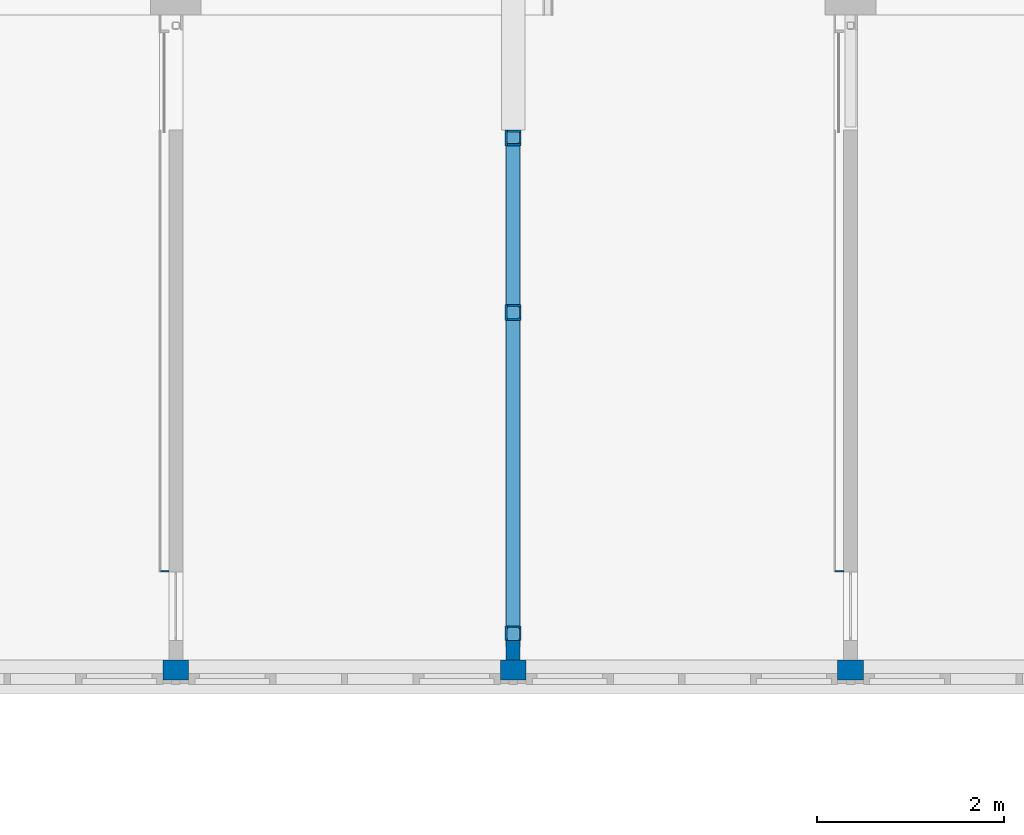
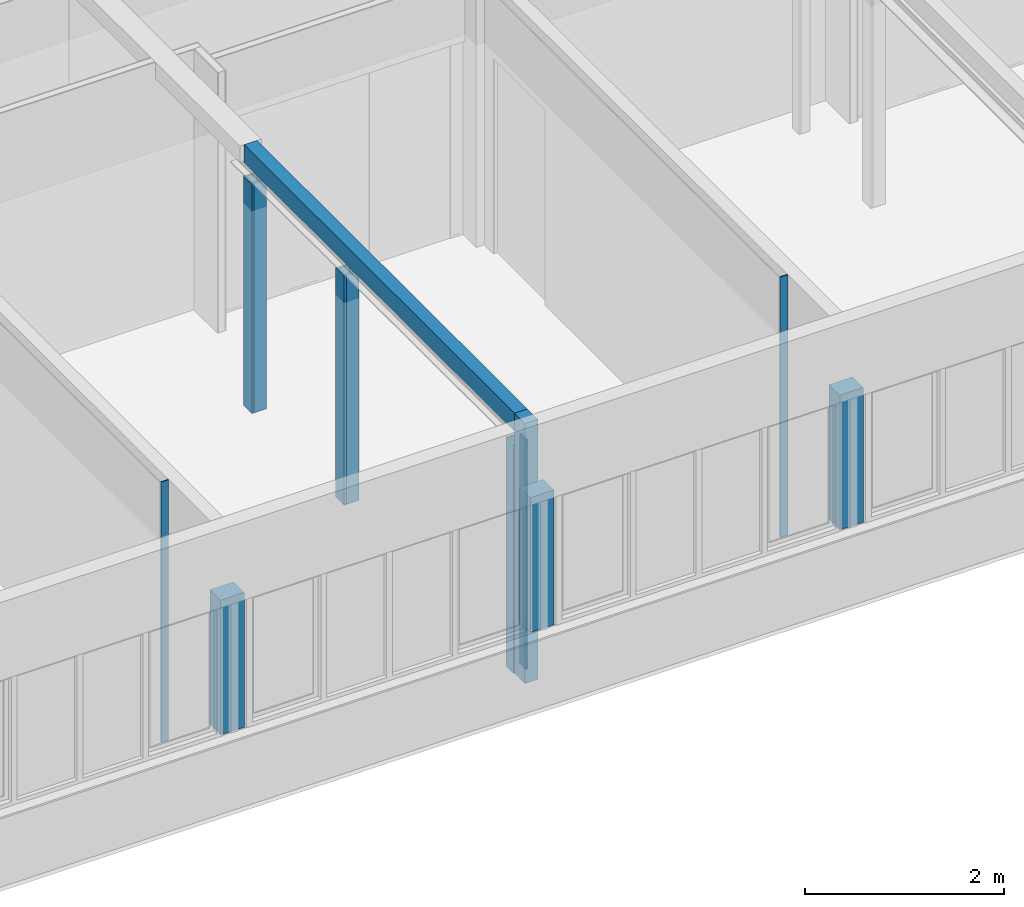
# One storey, part 64 of 117: 18 walls.
"""IFC2X3 building model written with IfcOpenShell, lengths in millimetres."""

from ifc_helpers import new_model, entity, si_unit, converted_unit, derived_unit, money_unit, direction, frame, origin_with_axes, place, context, subcontext, project, spatial, faceted_brep, material, type_object, element, save


model = new_model("IFC2X3")

# Units and contexts
model_context = context("Model", 3, precision=0.01, world=origin_with_axes(), true_north=direction((0.0, 1.0)))
body_context = subcontext(model_context, "Body", "Model", "MODEL_VIEW")
ifc_project = project(units=[si_unit("LENGTHUNIT", "METRE", prefix="MILLI"), si_unit("AREAUNIT", "SQUARE_METRE"), si_unit("VOLUMEUNIT", "CUBIC_METRE"), converted_unit("PLANEANGLEUNIT", "DEGREE", entity("IfcPlaneAngleMeasure", 0.0174532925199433), si_unit("PLANEANGLEUNIT", "RADIAN"), dimensions=[0, 0, 0, 0, 0, 0, 0]), money_unit("EUR"), converted_unit("TIMEUNIT", "Year", entity("IfcTimeMeasure", 31557600.0), si_unit("TIMEUNIT", "SECOND"), dimensions=[0, 0, 1, 0, 0, 0, 0]), si_unit("MASSUNIT", "GRAM", prefix="KILO"), si_unit("THERMODYNAMICTEMPERATUREUNIT", "DEGREE_CELSIUS"), si_unit("LUMINOUSINTENSITYUNIT", "LUMEN"), si_unit("ENERGYUNIT", "JOULE", prefix="MEGA"), derived_unit("THERMALCONDUCTANCEUNIT", [(si_unit("POWERUNIT", "WATT"), 1), (si_unit("LENGTHUNIT", "METRE"), -1), (si_unit("THERMODYNAMICTEMPERATUREUNIT", "KELVIN"), -1)]), derived_unit("SPECIFICHEATCAPACITYUNIT", [(si_unit("ENERGYUNIT", "JOULE"), 1), (si_unit("MASSUNIT", "GRAM", prefix="KILO"), -1), (si_unit("THERMODYNAMICTEMPERATUREUNIT", "KELVIN"), -1)]), derived_unit("MASSDENSITYUNIT", [(si_unit("MASSUNIT", "GRAM", prefix="KILO"), 1), (si_unit("VOLUMEUNIT", "CUBIC_METRE"), -1)])], contexts=[model_context])

# Site, building, storey
site_placement = place(None, origin_with_axes())
site = spatial("IfcSite", under=ifc_project, at=site_placement, Name="Site", CompositionType="ELEMENT")
building_placement = place(site_placement, origin_with_axes())
building = spatial("IfcBuilding", under=site, at=building_placement, Name="Naam gebouw", CompositionType="ELEMENT")
storey_placement = place(building_placement, frame((0.0, 0.0, 4150.0), z_axis=(0.0, 0.0, 1.0), x_axis=(1.0, 0.0, 0.0)))
storey = spatial("IfcBuildingStorey", under=building, at=storey_placement, Name="1e verdieping N", CompositionType="ELEMENT", Elevation=4150.0)

# Walls
ifc_material_1 = material(Name="ALG - CONSTRUCTIEF")
wall_type_1 = type_object("IfcWallType", Name="ALG - CONSTRUCTIEF 150", PredefinedType="NOTDEFINED")
wall_1_placement = place(storey_placement, frame((46799.99999999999, 10990.91242510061, -99.99999999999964), z_axis=(0.0, 0.0, 1.0), x_axis=(0.0, 1.0, 0.0)))
element("IfcWall", 1, at=wall_1_placement, inside=storey, type_object=wall_type_1, material=ifc_material_1, Name="_Wand-x", context=body_context, shape_type="Brep", body=[
    faceted_brep([(209.9999999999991, -75.00000000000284, 3300.0), (0.0, -75.00000000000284, 3300.0), (0.0, -75.00000000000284, 99.99999999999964), (209.9999999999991, -75.00000000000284, 99.99999999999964), (209.9999999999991, 75.00000000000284, 3300.0), (0.0, 75.00000000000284, 3300.0), (0.0, 75.00000000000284, 99.99999999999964), (209.9999999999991, 75.00000000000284, 99.99999999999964)], [[[0, 1, 2, 3]], [[4, 5, 1, 0]], [[1, 5, 6, 2]], [[2, 6, 7, 3]], [[4, 0, 3, 7]], [[5, 4, 7, 6]]]),
])
ifc_material_2 = material(Name="Gipsplaat")
wall_type_2 = type_object("IfcWallType", Name="Metalstud 100 enkel 100", PredefinedType="NOTDEFINED")
for number, where, z_axis, x_axis, name in (
    (2, (50324.99998658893, 11930.91242510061, 0.0), (0.0, 0.0, 1.0), (-1.0, 0.0, 0.0), "_Wand-x"),
    (3, (43125.0, 11930.91242510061, 0.0), (0.0, 0.0, 1.0), (-1.0, 0.0, 0.0), "_Wand-x"),
):
    element("IfcWall", number, at=place(storey_placement, frame(where, z_axis=z_axis, x_axis=x_axis)), inside=storey, type_object=wall_type_2, material=ifc_material_2, Name=name, context=body_context, shape_type="Brep", body=[
        faceted_brep([(87.49999999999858, -12.49999999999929, 0.0), (87.49999999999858, -12.49999999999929, 3200.0), (0.0, -12.49999999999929, 3200.0), (0.0, -12.49999999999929, 0.0), (87.49999999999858, 0.0, 0.0), (87.49999999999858, 0.0, 3200.0), (0.0, 0.0, 3200.0), (0.0, 0.0, 0.0)], [[[0, 1, 2, 3]], [[4, 5, 1, 0]], [[5, 6, 2, 1]], [[3, 2, 6, 7]], [[7, 4, 0, 3]], [[7, 6, 5, 4]]]),
    ])
wall_type_3 = type_object("IfcWallType", Name="Gipsplaat 25", PredefinedType="NOTDEFINED")
wall_2_placement = place(storey_placement, frame((46715.00000000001, 11200.91242510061, 0.0), z_axis=(0.0, 0.0, 1.0), x_axis=(0.0, 1.0, 0.0)))
element("IfcWall", 4, at=wall_2_placement, inside=storey, type_object=wall_type_3, material=ifc_material_2, Name="_Wand-x", context=body_context, shape_type="Brep", body=[
    faceted_brep([(154.9999999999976, -24.99999999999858, 2820.0), (154.9999999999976, 0.0, 2820.0), (0.0, 0.0, 2820.0), (0.0, -24.99999999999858, 2820.0), (154.9999999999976, -24.99999999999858, 0.0), (154.9999999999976, 0.0, 0.0), (0.0, 0.0, 0.0), (0.0, -24.99999999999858, 0.0)], [[[0, 1, 2, 3]], [[1, 0, 4, 5]], [[1, 5, 6, 2]], [[7, 3, 2, 6]], [[4, 0, 3, 7]], [[5, 4, 7, 6]]]),
])
wall_3_placement = place(storey_placement, frame((46715.00000000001, 16475.91242510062, 0.0), z_axis=(0.0, 0.0, 1.0), x_axis=(1.0, 0.0, 0.0)))
element("IfcWall", 5, at=wall_3_placement, inside=storey, type_object=wall_type_3, material=ifc_material_2, Name="_Wand-x", context=body_context, shape_type="Brep", body=[
    faceted_brep([(169.9999999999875, 25.00000000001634, 0.0), (169.9999999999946, 0.0, 0.0), (24.99999999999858, 0.0, 0.0), (24.99999999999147, 25.00000000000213, 0.0), (169.9999999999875, 25.00000000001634, 2820.0), (169.9999999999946, 0.0, 2820.0), (24.99999999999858, 0.0, 2820.0), (24.99999999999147, 25.00000000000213, 2820.0)], [[[0, 1, 2, 3]], [[1, 0, 4, 5]], [[1, 5, 6, 2]], [[7, 3, 2, 6]], [[4, 0, 3, 7]], [[5, 4, 7, 6]]]),
])
wall_4_placement = place(storey_placement, frame((46885.00000000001, 16475.9124251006, 0.0), z_axis=(0.0, 0.0, 1.0), x_axis=(0.0, 1.0, 0.0)))
element("IfcWall", 6, at=wall_4_placement, inside=storey, type_object=wall_type_3, material=ifc_material_2, Name="_Wand-x", context=body_context, shape_type="Brep", body=[
    faceted_brep([(145.0000000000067, 25.00000000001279, 0.0), (145.0000000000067, 0.0, 0.0), (24.99999999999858, 0.0, 0.0), (25.00000000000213, 24.99999999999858, 0.0), (145.0000000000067, 25.00000000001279, 2820.0), (145.0000000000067, 0.0, 2820.0), (24.99999999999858, 0.0, 2820.0), (25.00000000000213, 24.99999999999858, 2820.0)], [[[0, 1, 2, 3]], [[1, 0, 4, 5]], [[1, 5, 6, 2]], [[7, 3, 2, 6]], [[4, 0, 3, 7]], [[5, 4, 7, 6]]]),
])
wall_5_placement = place(storey_placement, frame((46885.00000000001, 11200.91242510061, 0.0), z_axis=(0.0, 0.0, 1.0), x_axis=(0.0, 1.0, 0.0)))
element("IfcWall", 7, at=wall_5_placement, inside=storey, type_object=wall_type_3, material=ifc_material_2, Name="_Wand-x", context=body_context, shape_type="Brep", body=[
    faceted_brep([(129.9999999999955, 25.00000000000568, 0.0), (129.9999999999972, 0.0, 0.0), (0.0, 0.0, 0.0), (0.0, 24.99999999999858, 0.0), (129.9999999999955, 25.00000000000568, 2820.0), (129.9999999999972, 0.0, 2820.0), (0.0, 0.0, 2820.0), (0.0, 24.99999999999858, 2820.0)], [[[0, 1, 2, 3]], [[1, 0, 4, 5]], [[1, 5, 6, 2]], [[7, 3, 2, 6]], [[4, 0, 3, 7]], [[5, 4, 7, 6]]]),
])
wall_6_placement = place(storey_placement, frame((46715.00000000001, 16475.91242510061, 0.0), z_axis=(0.0, 0.0, 1.0), x_axis=(0.0, 1.0, 0.0)))
element("IfcWall", 8, at=wall_6_placement, inside=storey, type_object=wall_type_3, material=ifc_material_2, Name="_Wand-x", context=body_context, shape_type="Brep", body=[
    faceted_brep([(169.999999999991, -24.99999999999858, 2820.0), (169.999999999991, 0.0, 2820.0), (0.0, 0.0, 2820.0), (0.0, -24.99999999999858, 2820.0), (169.999999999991, -24.99999999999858, 0.0), (169.999999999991, 0.0, 0.0), (0.0, 0.0, 0.0), (0.0, -24.99999999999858, 0.0)], [[[0, 1, 2, 3]], [[1, 0, 4, 5]], [[1, 5, 6, 2]], [[7, 3, 2, 6]], [[4, 0, 3, 7]], [[5, 4, 7, 6]]]),
])
wall_7_placement = place(storey_placement, frame((46885.00000000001, 14614.84204585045, 0.0), z_axis=(0.0, 0.0, 1.0), x_axis=(0.0, 1.0, 0.0)))
element("IfcWall", 9, at=wall_7_placement, inside=storey, type_object=wall_type_3, material=ifc_material_2, Name="_Wand-x", context=body_context, shape_type="Brep", body=[
    faceted_brep([(145.0000000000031, 25.00000000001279, 0.0), (145.0000000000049, 0.0, 0.0), (25.00000000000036, 0.0, 0.0), (25.00000000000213, 24.99999999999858, 0.0), (145.0000000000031, 25.00000000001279, 2820.0), (145.0000000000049, 0.0, 2820.0), (25.00000000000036, 0.0, 2820.0), (25.00000000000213, 24.99999999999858, 2820.0)], [[[0, 1, 2, 3]], [[1, 0, 4, 5]], [[1, 5, 6, 2]], [[7, 3, 2, 6]], [[4, 0, 3, 7]], [[5, 4, 7, 6]]]),
])
wall_8_placement = place(storey_placement, frame((46715.00000000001, 11355.9124251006, 0.0), z_axis=(0.0, 0.0, 1.0), x_axis=(1.0, 0.0, 0.0)))
element("IfcWall", 10, at=wall_8_placement, inside=storey, type_object=wall_type_3, material=ifc_material_2, Name="_Wand-x", context=body_context, shape_type="Brep", body=[
    faceted_brep([(170.0000000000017, -25.00000000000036, 2820.0), (170.0000000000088, 0.0, 2820.0), (24.99999999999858, 0.0, 2820.0), (24.99999999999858, -25.00000000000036, 2820.0), (170.0000000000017, -25.00000000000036, 0.0), (170.0000000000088, 0.0, 0.0), (24.99999999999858, 0.0, 0.0), (24.99999999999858, -25.00000000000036, 0.0)], [[[0, 1, 2, 3]], [[1, 0, 4, 5]], [[1, 5, 6, 2]], [[7, 3, 2, 6]], [[4, 0, 3, 7]], [[5, 4, 7, 6]]]),
])
wall_9_placement = place(storey_placement, frame((46715.00000000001, 16645.9124251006, 0.0), z_axis=(0.0, 0.0, 1.0), x_axis=(1.0, 0.0, 0.0)))
element("IfcWall", 11, at=wall_9_placement, inside=storey, type_object=wall_type_3, material=ifc_material_2, Name="_Wand-x", context=body_context, shape_type="Brep", body=[
    faceted_brep([(170.0000000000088, -24.99999999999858, 2820.0), (170.0000000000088, 0.0, 2820.0), (24.99999999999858, 0.0, 2820.0), (24.99999999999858, -24.99999999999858, 2820.0), (170.0000000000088, -24.99999999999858, 0.0), (170.0000000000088, 0.0, 0.0), (24.99999999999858, 0.0, 0.0), (24.99999999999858, -24.99999999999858, 0.0)], [[[0, 1, 2, 3]], [[1, 0, 4, 5]], [[1, 5, 6, 2]], [[7, 3, 2, 6]], [[4, 0, 3, 7]], [[5, 4, 7, 6]]]),
])
wall_10_placement = place(storey_placement, frame((46715.00000000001, 14614.84204585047, 0.0), z_axis=(0.0, 0.0, 1.0), x_axis=(1.0, 0.0, 0.0)))
element("IfcWall", 12, at=wall_10_placement, inside=storey, type_object=wall_type_3, material=ifc_material_2, Name="_Wand-x", context=body_context, shape_type="Brep", body=[
    faceted_brep([(169.9999999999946, 25.00000000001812, 0.0), (169.9999999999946, 0.0, 0.0), (24.99999999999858, 0.0, 0.0), (24.99999999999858, 25.00000000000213, 0.0), (169.9999999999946, 25.00000000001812, 2820.0), (169.9999999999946, 0.0, 2820.0), (24.99999999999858, 0.0, 2820.0), (24.99999999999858, 25.00000000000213, 2820.0)], [[[0, 1, 2, 3]], [[1, 0, 4, 5]], [[1, 5, 6, 2]], [[7, 3, 2, 6]], [[4, 0, 3, 7]], [[5, 4, 7, 6]]]),
])
wall_11_placement = place(storey_placement, frame((46715.00000000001, 14614.84204585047, 0.0), z_axis=(0.0, 0.0, 1.0), x_axis=(0.0, 1.0, 0.0)))
element("IfcWall", 13, at=wall_11_placement, inside=storey, type_object=wall_type_3, material=ifc_material_2, Name="_Wand-x", context=body_context, shape_type="Brep", body=[
    faceted_brep([(169.999999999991, -24.99999999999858, 2820.0), (169.999999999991, 0.0, 2820.0), (0.0, 0.0, 2820.0), (0.0, -24.99999999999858, 2820.0), (169.999999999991, -24.99999999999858, 0.0), (169.999999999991, 0.0, 0.0), (0.0, 0.0, 0.0), (0.0, -24.99999999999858, 0.0)], [[[0, 1, 2, 3]], [[1, 0, 4, 5]], [[1, 5, 6, 2]], [[7, 3, 2, 6]], [[4, 0, 3, 7]], [[5, 4, 7, 6]]]),
])
wall_12_placement = place(storey_placement, frame((46715.00000000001, 14784.84204585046, 0.0), z_axis=(0.0, 0.0, 1.0), x_axis=(1.0, 0.0, 0.0)))
element("IfcWall", 14, at=wall_12_placement, inside=storey, type_object=wall_type_3, material=ifc_material_2, Name="_Wand-x", context=body_context, shape_type="Brep", body=[
    faceted_brep([(170.0000000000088, -25.00000000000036, 2820.0), (170.0000000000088, 0.0, 2820.0), (24.99999999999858, 0.0, 2820.0), (24.99999999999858, -25.00000000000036, 2820.0), (170.0000000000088, -25.00000000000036, 0.0), (170.0000000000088, 0.0, 0.0), (24.99999999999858, 0.0, 0.0), (24.99999999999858, -25.00000000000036, 0.0)], [[[0, 1, 2, 3]], [[1, 0, 4, 5]], [[1, 5, 6, 2]], [[7, 3, 2, 6]], [[4, 0, 3, 7]], [[5, 4, 7, 6]]]),
])
ifc_material_3 = material(Name="ALG - GEVEL")
wall_type_4 = type_object("IfcWallType", Name="ALG - GEVEL 260", PredefinedType="NOTDEFINED")
wall_13_placement = place(storey_placement, frame((50537.50000000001, 10730.9124251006, 783.0000000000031), z_axis=(0.0, 0.0, 1.0), x_axis=(-1.0, 0.0, 0.0)))
element("IfcWall", 15, at=wall_13_placement, inside=storey, type_object=wall_type_4, material=ifc_material_3, Name="_Wand-x", context=body_context, shape_type="Brep", body=[
    faceted_brep([(275.000000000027, -44.00000000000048, 1656.999999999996), (0.0, -44.00000000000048, 1656.999999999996), (0.0, -259.9999999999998, 1656.999999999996), (275.0000000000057, -259.9999999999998, 1656.999999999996), (275.000000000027, -44.00000000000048, 0.0), (0.0, -44.00000000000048, 0.0), (0.0, -259.9999999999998, 0.0), (275.0000000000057, -259.9999999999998, 0.0)], [[[0, 1, 2, 3]], [[0, 4, 5, 1]], [[2, 1, 5, 6]], [[3, 2, 6, 7]], [[7, 4, 0, 3]], [[5, 4, 7, 6]]]),
])
wall_14_placement = place(storey_placement, frame((46937.50000000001, 10730.9124251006, 783.0000000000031), z_axis=(0.0, 0.0, 1.0), x_axis=(-1.0, 0.0, 0.0)))
element("IfcWall", 16, at=wall_14_placement, inside=storey, type_object=wall_type_4, material=ifc_material_3, Name="_Wand-x", context=body_context, shape_type="Brep", body=[
    faceted_brep([(275.0000000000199, -44.00000000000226, 1656.999999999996), (0.0, -44.00000000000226, 1656.999999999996), (0.0, -259.9999999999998, 1656.999999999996), (275.0000000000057, -259.9999999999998, 1656.999999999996), (275.0000000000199, -44.00000000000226, 0.0), (0.0, -44.00000000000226, 0.0), (0.0, -259.9999999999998, 0.0), (275.0000000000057, -259.9999999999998, 0.0)], [[[0, 1, 2, 3]], [[0, 4, 5, 1]], [[2, 1, 5, 6]], [[3, 2, 6, 7]], [[7, 4, 0, 3]], [[5, 4, 7, 6]]]),
])
wall_15_placement = place(storey_placement, frame((43337.49999999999, 10730.91242510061, 783.0000000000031), z_axis=(0.0, 0.0, 1.0), x_axis=(-1.0, 0.0, 0.0)))
element("IfcWall", 17, at=wall_15_placement, inside=storey, type_object=wall_type_4, material=ifc_material_3, Name="_Wand-x", context=body_context, shape_type="Brep", body=[
    faceted_brep([(274.9999999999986, -44.00000000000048, 1656.999999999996), (0.0, -44.00000000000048, 1656.999999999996), (0.0, -259.9999999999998, 1656.999999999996), (275.0000000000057, -259.9999999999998, 1656.999999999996), (274.9999999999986, -44.00000000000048, 0.0), (0.0, -44.00000000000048, 0.0), (0.0, -259.9999999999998, 0.0), (275.0000000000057, -259.9999999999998, 0.0)], [[[0, 1, 2, 3]], [[0, 4, 5, 1]], [[2, 1, 5, 6]], [[3, 2, 6, 7]], [[7, 4, 0, 3]], [[5, 4, 7, 6]]]),
])
ifc_material_4 = material(Name="Steen - Betonblok C")
wall_type_5 = type_object("IfcWallType", Name="Steen - Betonblok C 150", PredefinedType="NOTDEFINED")
wall_16_placement = place(storey_placement, frame((46800.0, 16645.91242510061, 2980.0), z_axis=(0.0, 0.0, 1.0), x_axis=(0.0, -1.0, 0.0)))
element("IfcWall", 18, at=wall_16_placement, inside=storey, type_object=wall_type_5, material=ifc_material_4, Name="_Wand-x", context=body_context, shape_type="Brep", body=[
    faceted_brep([(0.0, -75.00000000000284, 219.9999999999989), (5515.000000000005, -75.00000000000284, 219.9999999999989), (5515.000000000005, 75.00000000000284, 219.9999999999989), (0.0, 75.00000000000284, 219.9999999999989), (0.0, -75.00000000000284, 0.0), (5515.000000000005, -75.00000000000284, 0.0), (5515.000000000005, 75.00000000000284, 0.0), (0.0, 75.00000000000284, 0.0)], [[[0, 1, 2, 3]], [[4, 5, 1, 0]], [[2, 1, 5, 6]], [[3, 2, 6, 7]], [[4, 0, 3, 7]], [[7, 6, 5, 4]]]),
])

save(model, "model.ifc")
